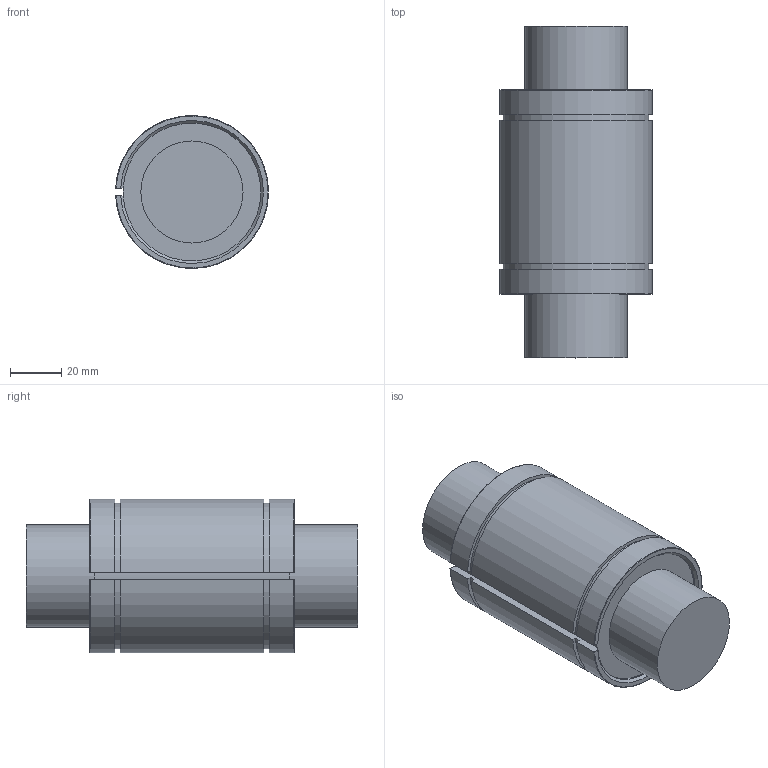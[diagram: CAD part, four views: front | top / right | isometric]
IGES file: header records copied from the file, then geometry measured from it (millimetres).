
Global section: file name: No Iges File Name specified; native system: Autodesk Inventor 2012; preprocessor: AutoDesk Inventor Iges Exporter R2012; author: user2; date: 20130206.101724; units: millimetre
Bounding box: 59.96 x 130 x 59.98 mm (x, y, z)
Volume: 283481.1 mm3; surface area: 29270 mm2
Topology: 1 solids, 1 shells, 26 faces, 64 edges, 42 vertices
Faces by surface type: plane 12, cylinder 8, revolution 4, torus 2
Full cylindrical faces by diameter (mm): 40 x2
